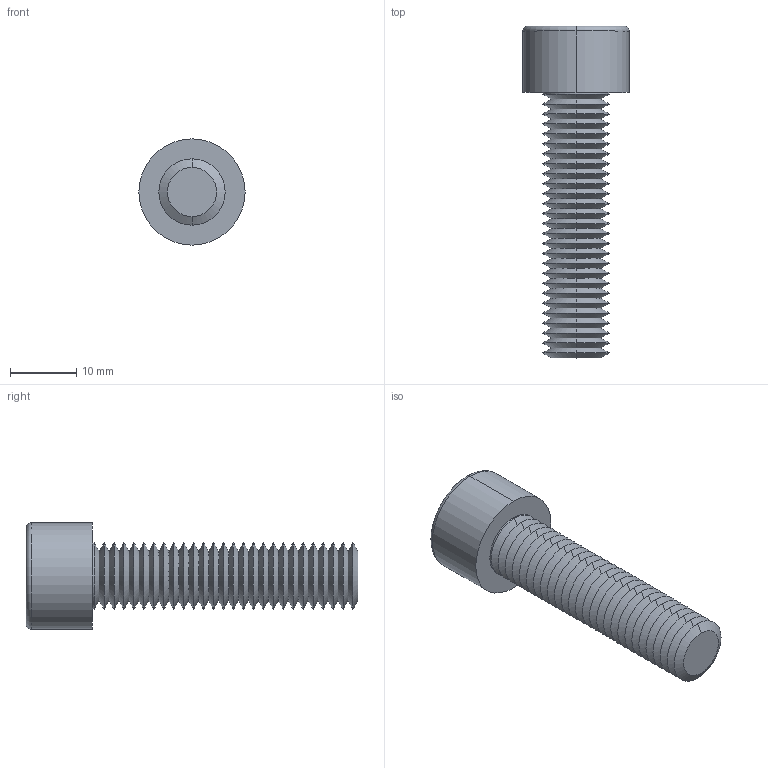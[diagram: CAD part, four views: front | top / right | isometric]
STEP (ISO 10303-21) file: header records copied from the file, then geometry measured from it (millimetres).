
FILE_DESCRIPTION (( 'STEP AP203' ), '1' );
FILE_NAME ('91N.100.0400.step', '2025-05-20T08:55:22', ( '' ), ( '' ), 'SwSTEP 2.0', 'SolidWorks 2019', '' );
FILE_SCHEMA (( 'CONFIG_CONTROL_DESIGN' ));
Length unit declared in the file: millimetre
Products named in the file (1): 91N.100.0400
Bounding box: 16 x 50 x 16 mm (x, y, z)
Volume: 3922.5 mm3; surface area: 3260.7 mm2
Topology: 1 solids, 1 shells, 136 faces, 271 edges, 137 vertices
Faces by surface type: cone 115, plane 15, cylinder 4, torus 2
Entity records: 3482 total; most frequent: DIRECTION 667, CARTESIAN_POINT 574, ORIENTED_EDGE 538, EDGE_CURVE 269, AXIS2_PLACEMENT_3D 268, EDGE_LOOP 138, VERTEX_POINT 137, ADVANCED_FACE 136
